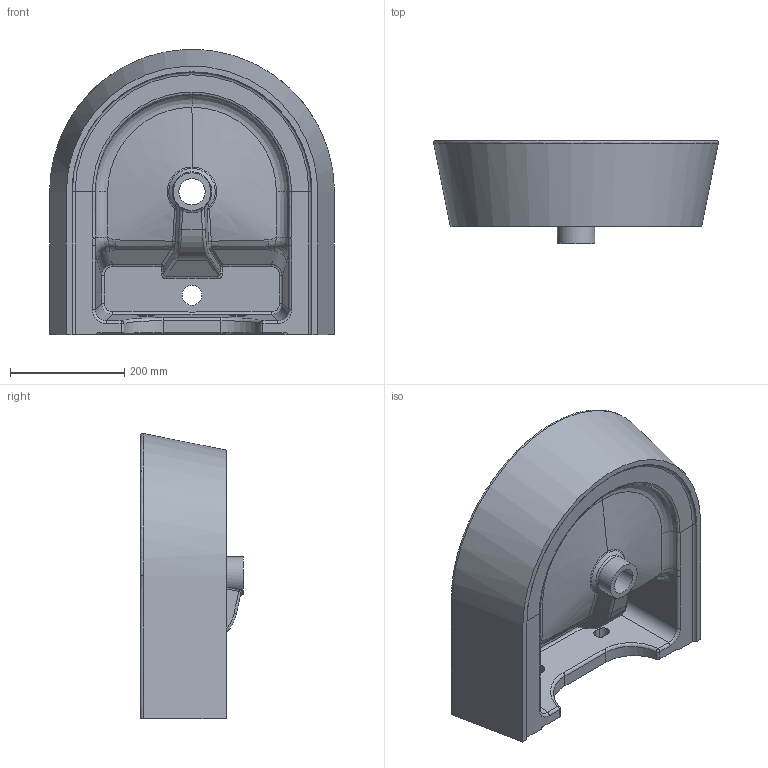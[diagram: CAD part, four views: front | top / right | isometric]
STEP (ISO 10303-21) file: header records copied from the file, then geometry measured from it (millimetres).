
FILE_DESCRIPTION (( 'STEP AP203' ), '1' );
FILE_NAME ('FORMA50 LAVABO.STEP', '2018-09-11T12:43:50', ( '' ), ( '' ), 'SwSTEP 2.0', 'SolidWorks 2018', '' );
FILE_SCHEMA (( 'CONFIG_CONTROL_DESIGN' ));
Length unit declared in the file: millimetre
Products named in the file (1): FORMA50 LAVABO
Bounding box: 498.24 x 180 x 498.98 mm (x, y, z)
Volume: 11152215.6 mm3; surface area: 842017.5 mm2
Topology: 1 solids, 1 shells, 166 faces, 430 edges, 268 vertices
Faces by surface type: bspline 63, cylinder 52, plane 30, torus 9, sphere 8, cone 4
Full cylindrical faces by diameter (mm): 20 x1, 35 x1, 46 x1, 66 x1
Entity records: 15694 total; most frequent: CARTESIAN_POINT 12055, ORIENTED_EDGE 844, DIRECTION 635, EDGE_CURVE 422, VERTEX_POINT 265, AXIS2_PLACEMENT_3D 256, EDGE_LOOP 181, FACE_OUTER_BOUND 170
